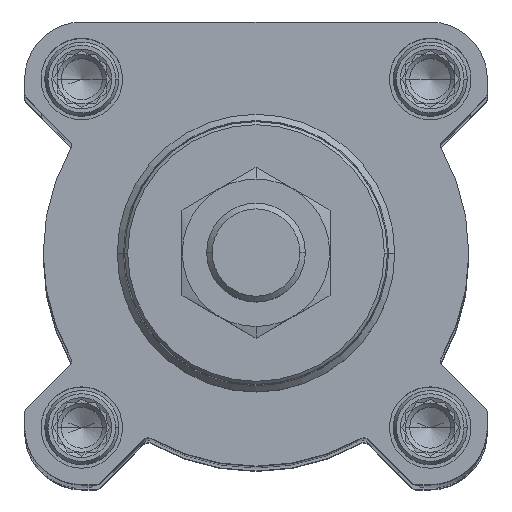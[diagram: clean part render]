
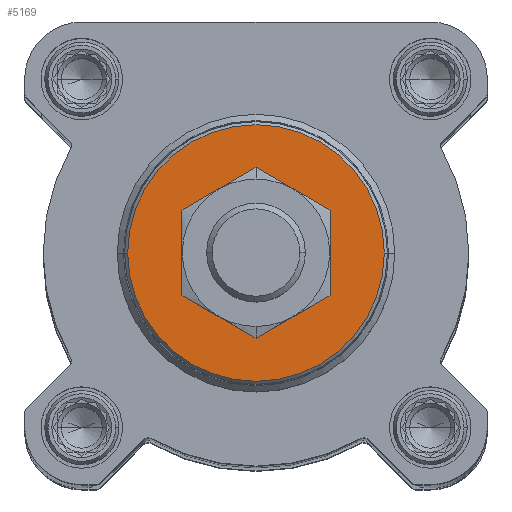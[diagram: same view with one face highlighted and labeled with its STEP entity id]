
A CAD part, top view. The second image highlights one B-rep face of the part: STEP entity #5169.
In plain terms, the highlighted planar face has unit normal (0, 0, 1).
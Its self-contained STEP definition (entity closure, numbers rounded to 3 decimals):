
#727 = DIRECTION ( 'NONE',  ( -1., 0., 0. ) ) ;
#936 = DIRECTION ( 'NONE',  ( 0., 0., -1. ) ) ;
#966 = VERTEX_POINT ( 'NONE', #16730 ) ;
#2268 = DIRECTION ( 'NONE',  ( 0., 0., -1. ) ) ;
#2462 = DIRECTION ( 'NONE',  ( 0., 0., -1. ) ) ;
#2524 = VERTEX_POINT ( 'NONE', #7821 ) ;
#3050 = EDGE_CURVE ( 'NONE', #8864, #2524, #4228, .T. ) ;
#3290 = DIRECTION ( 'NONE',  ( 0., 0., -1. ) ) ;
#3496 = CIRCLE ( 'NONE', #13470, 10. ) ;
#4228 = CIRCLE ( 'NONE', #9399, 10. ) ;
#5169 = ADVANCED_FACE ( 'NONE', ( #12390, #7965 ), #18561, .F. ) ;
#5812 = EDGE_CURVE ( 'NONE', #966, #14133, #18231, .T. ) ;
#6285 = CARTESIAN_POINT ( 'NONE',  ( 10., 0., 27. ) ) ;
#6682 = DIRECTION ( 'NONE',  ( 0., 0., -1. ) ) ;
#7021 = EDGE_LOOP ( 'NONE', ( #13852, #11556 ) ) ;
#7821 = CARTESIAN_POINT ( 'NONE',  ( -10., 0., 27. ) ) ;
#7965 = FACE_BOUND ( 'NONE', #16310, .T. ) ;
#8631 = DIRECTION ( 'NONE',  ( -1., 0., 0. ) ) ;
#8855 = CIRCLE ( 'NONE', #16581, 20.799 ) ;
#8864 = VERTEX_POINT ( 'NONE', #6285 ) ;
#9399 = AXIS2_PLACEMENT_3D ( 'NONE', #9850, #2462, #8631 ) ;
#9850 = CARTESIAN_POINT ( 'NONE',  ( 0., 0., 27. ) ) ;
#10123 = CARTESIAN_POINT ( 'NONE',  ( 0., 0., 27. ) ) ;
#10438 = CARTESIAN_POINT ( 'NONE',  ( 20.799, 0., 27. ) ) ;
#10494 = EDGE_CURVE ( 'NONE', #14133, #966, #8855, .T. ) ;
#10915 = CARTESIAN_POINT ( 'NONE',  ( 0., 0., 27. ) ) ;
#11556 = ORIENTED_EDGE ( 'NONE', *, *, #10494, .F. ) ;
#11568 = AXIS2_PLACEMENT_3D ( 'NONE', #17042, #3290, #12287 ) ;
#12287 = DIRECTION ( 'NONE',  ( 0., -1., 0. ) ) ;
#12390 = FACE_OUTER_BOUND ( 'NONE', #7021, .T. ) ;
#12511 = DIRECTION ( 'NONE',  ( -1., 0., 0. ) ) ;
#13221 = EDGE_CURVE ( 'NONE', #2524, #8864, #3496, .T. ) ;
#13470 = AXIS2_PLACEMENT_3D ( 'NONE', #10123, #936, #727 ) ;
#13852 = ORIENTED_EDGE ( 'NONE', *, *, #5812, .F. ) ;
#14133 = VERTEX_POINT ( 'NONE', #10438 ) ;
#15895 = DIRECTION ( 'NONE',  ( -1., 0., 0. ) ) ;
#15924 = ORIENTED_EDGE ( 'NONE', *, *, #3050, .T. ) ;
#16103 = CARTESIAN_POINT ( 'NONE',  ( 0., 0., 27. ) ) ;
#16310 = EDGE_LOOP ( 'NONE', ( #19673, #15924 ) ) ;
#16581 = AXIS2_PLACEMENT_3D ( 'NONE', #10915, #6682, #12511 ) ;
#16730 = CARTESIAN_POINT ( 'NONE',  ( -20.799, 0., 27. ) ) ;
#17042 = CARTESIAN_POINT ( 'NONE',  ( 0., 0., 27. ) ) ;
#18231 = CIRCLE ( 'NONE', #18568, 20.799 ) ;
#18561 = PLANE ( 'NONE',  #11568 ) ;
#18568 = AXIS2_PLACEMENT_3D ( 'NONE', #16103, #2268, #15895 ) ;
#19673 = ORIENTED_EDGE ( 'NONE', *, *, #13221, .T. ) ;
